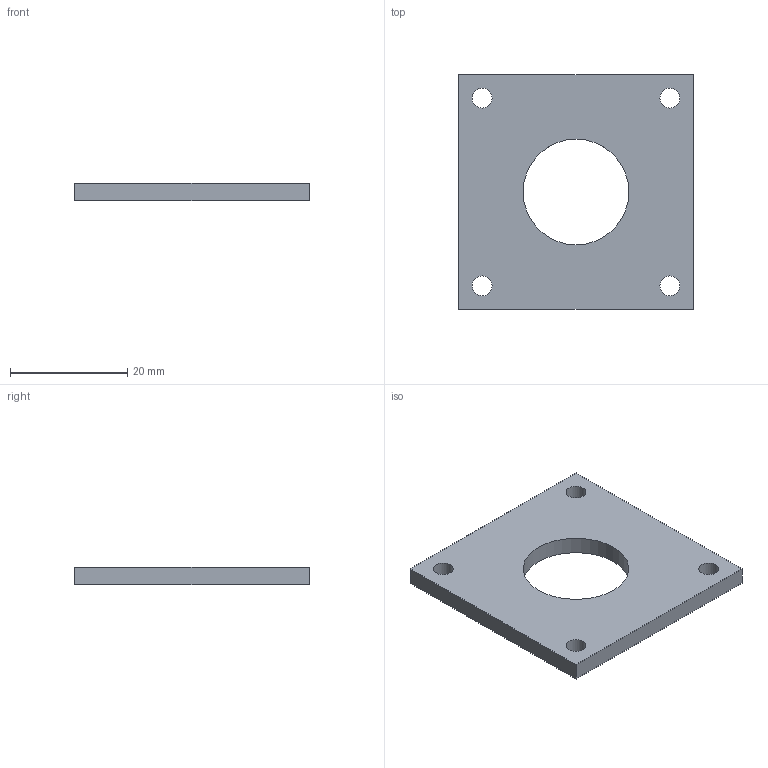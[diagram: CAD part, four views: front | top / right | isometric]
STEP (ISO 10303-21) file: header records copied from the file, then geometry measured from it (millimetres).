
FILE_DESCRIPTION(('Open CASCADE Model'),'2;1');
FILE_NAME('Open CASCADE Shape Model','2026-10-21T17:23:52',('Author'),( 'Open CASCADE'),'Open CASCADE STEP processor 7.9','Open CASCADE 7.9' ,'Unknown');
FILE_SCHEMA(('AUTOMOTIVE_DESIGN { 1 0 10303 214 1 1 1 1 }'));
Length unit declared in the file: millimetre
Products named in the file (1): Open CASCADE STEP translator 7.9 52
Bounding box: 40 x 40 x 3 mm (x, y, z)
Volume: 3927.6 mm3; surface area: 3396.3 mm2
Topology: 1 solids, 1 shells, 11 faces, 27 edges, 18 vertices
Faces by surface type: plane 6, cylinder 5
Full cylindrical faces by diameter (mm): 3.4 x4, 18 x1
Entity records: 742 total; most frequent: CARTESIAN_POINT 171, DIRECTION 105, LINE 61, VECTOR 61, ORIENTED_EDGE 54, PCURVE 54, DEFINITIONAL_REPRESENTATION 54, EDGE_CURVE 27
